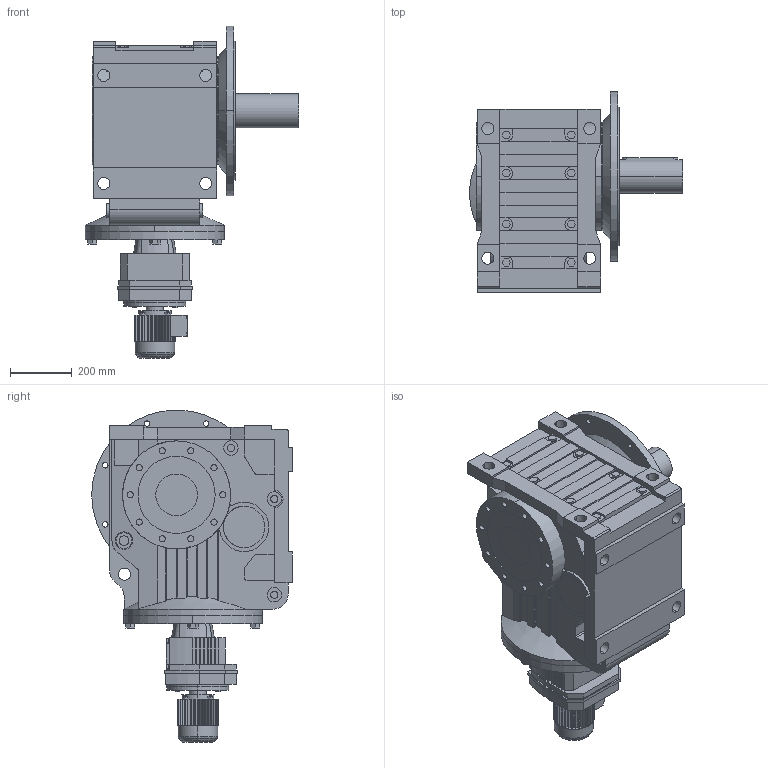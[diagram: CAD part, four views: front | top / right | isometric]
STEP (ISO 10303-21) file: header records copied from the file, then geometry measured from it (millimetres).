
FILE_DESCRIPTION(('Open CASCADE Model'),'2;1');
FILE_NAME('Open CASCADE Shape Model','2021-07-24T17:23:40',('Author'),( 'Open CASCADE'),'Open CASCADE STEP processor 6.3','Open CASCADE 6.3' ,'Unknown');
FILE_SCHEMA(('AUTOMOTIVE_DESIGN_CC2 { 1 2 10303 214 -1 1 5 4 }'));
Length unit declared in the file: millimetre
Products named in the file (6): 1_KF127R77DR63-A; KA127‵157_127.step; 萇儂_200-DR63-179-234-132-105.step; R_127_77.step; す瑩妗陑粣K_127.step; 楊擘K_127.step
Assembly tree (5 placements, depth 2):
  1_KF127R77DR63-A
    KA127‵157_127.step
    萇儂_200-DR63-179-234-132-105.step
    R_127_77.step
    す瑩妗陑粣K_127.step
    楊擘K_127.step
Bounding box: 691 x 650 x 1076 mm (x, y, z)
Volume: 130453258.6 mm3; surface area: 3813902.7 mm2
Topology: 5 solids, 5 shells, 1189 faces, 3126 edges, 2044 vertices
Faces by surface type: plane 788, cylinder 375, cone 22, torus 4
Entity records: 85265 total; most frequent: CARTESIAN_POINT 25847, DIRECTION 10180, ORIENTED_EDGE 6248, PCURVE 6248, DEFINITIONAL_REPRESENTATION 6248, LINE 5555, VECTOR 5555, EDGE_CURVE 3124
